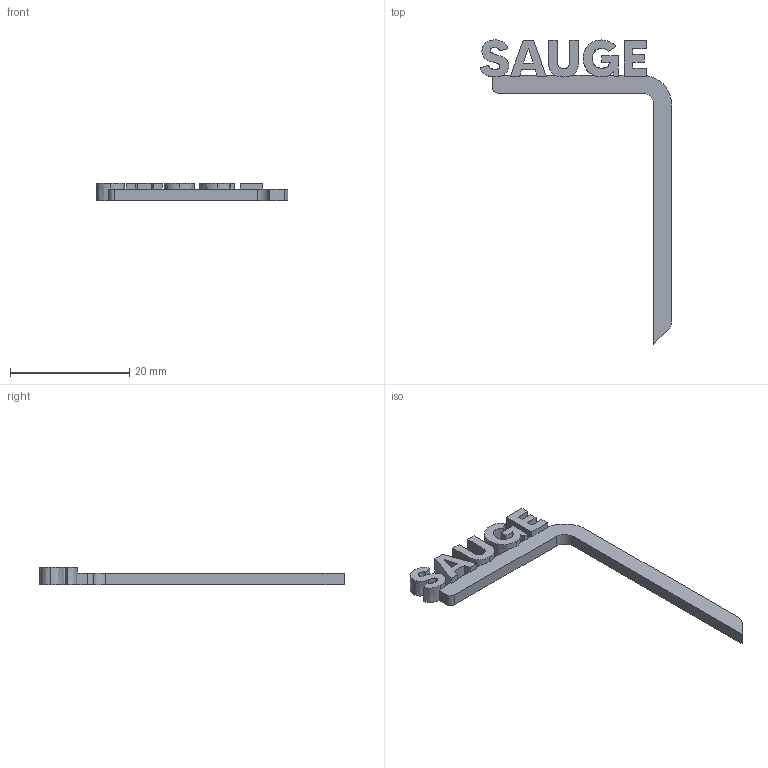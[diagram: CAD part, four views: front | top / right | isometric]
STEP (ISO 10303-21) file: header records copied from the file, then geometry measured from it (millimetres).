
FILE_DESCRIPTION(('STEP AP214'),'1');
FILE_NAME('Sauge.stp','2025-04-24T13:33:04',(' '),(' '),'Spatial InterOp 3D',' ',' ');
FILE_SCHEMA(('AUTOMOTIVE_DESIGN { 1 0 10303 214 1 1 1 1 }'));
Length unit declared in the file: millimetre
Products named in the file (1): Sauge
Bounding box: 32.05 x 50.91 x 3 mm (x, y, z)
Volume: 692.4 mm3; surface area: 1272.8 mm2
Topology: 1 solids, 1 shells, 84 faces, 252 edges, 168 vertices
Faces by surface type: plane 56, extrusion 24, cylinder 4
Entity records: 3736 total; most frequent: CARTESIAN_POINT 847, ORIENTED_EDGE 504, DIRECTION 352, EDGE_CURVE 252, VECTOR 214, LINE 190, VERTEX_POINT 168, EDGE_LOOP 88
